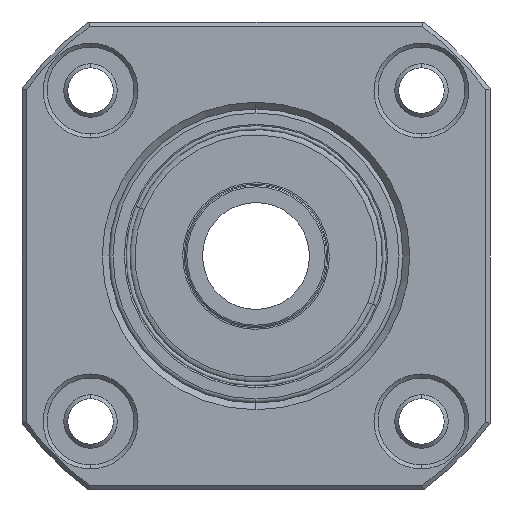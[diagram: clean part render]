
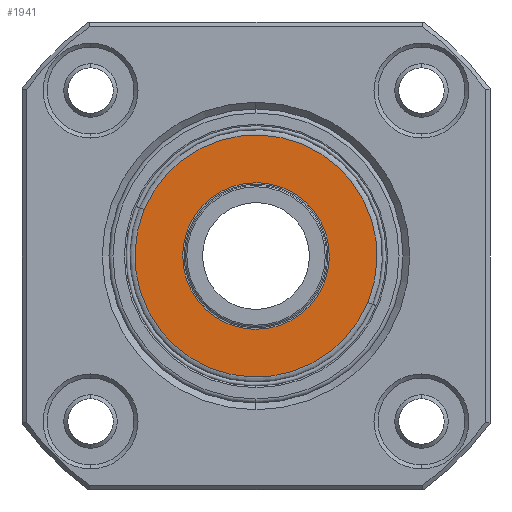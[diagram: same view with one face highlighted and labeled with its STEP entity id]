
A CAD part, left-side view. The second image highlights one B-rep face of the part: STEP entity #1941.
In plain terms, the highlighted planar face has unit normal (-1, 0, 0).
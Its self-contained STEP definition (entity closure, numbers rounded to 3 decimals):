
#98 = ORIENTED_EDGE ( 'NONE', *, *, #2743, .F. ) ;
#162 = AXIS2_PLACEMENT_3D ( 'NONE', #1767, #1753, #1770 ) ;
#261 = FACE_BOUND ( 'NONE', #2032, .T. ) ;
#473 = EDGE_CURVE ( 'NONE', #1512, #928, #2950, .T. ) ;
#539 = CARTESIAN_POINT ( 'NONE',  ( 2.6, 8.366, 3.457 ) ) ;
#581 = EDGE_LOOP ( 'NONE', ( #98, #1574 ) ) ;
#818 = CARTESIAN_POINT ( 'NONE',  ( 2.6, -5.069, -2.094 ) ) ;
#928 = VERTEX_POINT ( 'NONE', #818 ) ;
#963 = DIRECTION ( 'NONE',  ( 0., -0.924, -0.382 ) ) ;
#967 = DIRECTION ( 'NONE',  ( 1., 0., 0. ) ) ;
#976 = CARTESIAN_POINT ( 'NONE',  ( 2.6, 0., 0. ) ) ;
#1188 = VERTEX_POINT ( 'NONE', #539 ) ;
#1231 = AXIS2_PLACEMENT_3D ( 'NONE', #2013, #2007, #1995 ) ;
#1335 = CARTESIAN_POINT ( 'NONE',  ( 2.6, -8.366, -3.457 ) ) ;
#1512 = VERTEX_POINT ( 'NONE', #2711 ) ;
#1574 = ORIENTED_EDGE ( 'NONE', *, *, #2058, .F. ) ;
#1591 = EDGE_CURVE ( 'NONE', #928, #1512, #2834, .T. ) ;
#1651 = AXIS2_PLACEMENT_3D ( 'NONE', #976, #967, #963 ) ;
#1667 = VERTEX_POINT ( 'NONE', #1335 ) ;
#1753 = DIRECTION ( 'NONE',  ( 1., 0., 0. ) ) ;
#1767 = CARTESIAN_POINT ( 'NONE',  ( 2.6, 0., 0. ) ) ;
#1770 = DIRECTION ( 'NONE',  ( 0., -0.924, -0.382 ) ) ;
#1941 = ADVANCED_FACE ( 'NONE', ( #3131, #261 ), #3027, .F. ) ;
#1995 = DIRECTION ( 'NONE',  ( 0., -0.924, -0.382 ) ) ;
#2007 = DIRECTION ( 'NONE',  ( 1., 0., 0. ) ) ;
#2013 = CARTESIAN_POINT ( 'NONE',  ( 2.6, 0., 0. ) ) ;
#2032 = EDGE_LOOP ( 'NONE', ( #2268, #2929 ) ) ;
#2058 = EDGE_CURVE ( 'NONE', #1188, #1667, #3312, .T. ) ;
#2149 = AXIS2_PLACEMENT_3D ( 'NONE', #2759, #2767, #2791 ) ;
#2268 = ORIENTED_EDGE ( 'NONE', *, *, #1591, .T. ) ;
#2368 = DIRECTION ( 'NONE',  ( 0., -0.924, -0.382 ) ) ;
#2711 = CARTESIAN_POINT ( 'NONE',  ( 2.6, 5.069, 2.094 ) ) ;
#2743 = EDGE_CURVE ( 'NONE', #1667, #1188, #2790, .T. ) ;
#2759 = CARTESIAN_POINT ( 'NONE',  ( 2.6, 0., 0. ) ) ;
#2767 = DIRECTION ( 'NONE',  ( 1., 0., 0. ) ) ;
#2790 = CIRCLE ( 'NONE', #1651, 9.052 ) ;
#2791 = DIRECTION ( 'NONE',  ( 0., -0.924, -0.382 ) ) ;
#2834 = CIRCLE ( 'NONE', #162, 5.485 ) ;
#2929 = ORIENTED_EDGE ( 'NONE', *, *, #473, .T. ) ;
#2950 = CIRCLE ( 'NONE', #1231, 5.485 ) ;
#3027 = PLANE ( 'NONE',  #3553 ) ;
#3131 = FACE_OUTER_BOUND ( 'NONE', #581, .T. ) ;
#3280 = CARTESIAN_POINT ( 'NONE',  ( 2.6, 2.094, -5.069 ) ) ;
#3284 = DIRECTION ( 'NONE',  ( 1., 0., 0. ) ) ;
#3312 = CIRCLE ( 'NONE', #2149, 9.052 ) ;
#3553 = AXIS2_PLACEMENT_3D ( 'NONE', #3280, #3284, #2368 ) ;
